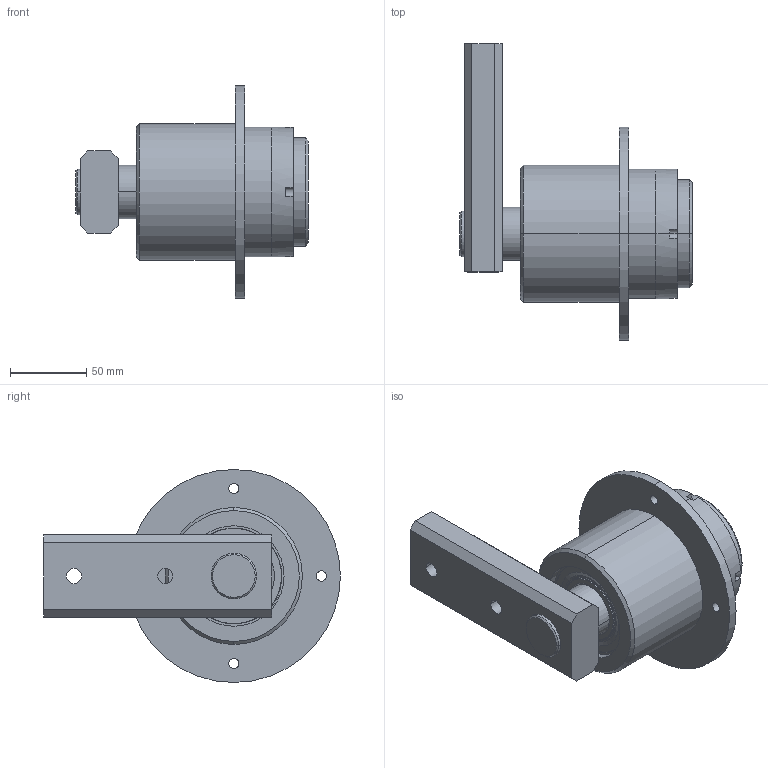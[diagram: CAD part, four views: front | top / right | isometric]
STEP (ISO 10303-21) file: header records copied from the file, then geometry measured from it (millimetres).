
FILE_DESCRIPTION (( 'STEP AP203' ), '1' );
FILE_NAME ('Ens arbre moyeu.STEP', '2016-02-04T11:05:20', ( 'DUCATIMAN' ), ( '' ), 'SwSTEP 2.0', 'SolidWorks 2012', '' );
FILE_SCHEMA (( 'CONFIG_CONTROL_DESIGN' ));
Length unit declared in the file: millimetre
Products named in the file (19): Moyeu; Piece Bati moyeu; Entretoise; snr_6207ej40_1; 4_1; 3_1; 2_1; 1_1; snr_6306ej30d1_1; 4_2; 3_2; 2_2; 1_2; Arbre; Ens arbre moyeu; prevailing torque hex flange nut_am_AM-M14-N; flat washer regular_am_B18.22M - Plain washer, 14 mm, regular; socket head cap screw_am_B18.3.1M - 3 x 0.5 x 20 Hex SHCS -- 20NHX; Couvercle moyeu
Assembly tree (18 placements, depth 3):
  Ens arbre moyeu
    Arbre
    snr_6306ej30d1_1
      1_2
      2_2
      3_2
      4_2
    snr_6207ej40_1
      1_1
      2_1
      3_1
      4_1
    Entretoise
    Piece Bati moyeu
    Moyeu
    Couvercle moyeu
    socket head cap screw_am_B18.3.1M - 3 x 0.5 x 20 Hex SHCS -- 20NHX
    flat washer regular_am_B18.22M - Plain washer, 14 mm, regular
    prevailing torque hex flange nut_am_AM-M14-N
Bounding box: 153 x 195 x 140 mm (x, y, z)
Volume: 701536.5 mm3; surface area: 208989 mm2
Topology: 16 solids, 16 shells, 351 faces, 807 edges, 483 vertices
Faces by surface type: cylinder 117, plane 86, bspline 74, cone 70, torus 4
Entity records: 13774 total; most frequent: CARTESIAN_POINT 4076, DIRECTION 1681, ORIENTED_EDGE 1530, EDGE_CURVE 765, AXIS2_PLACEMENT_3D 706, VERTEX_POINT 483, EDGE_LOOP 434, CIRCLE 406
